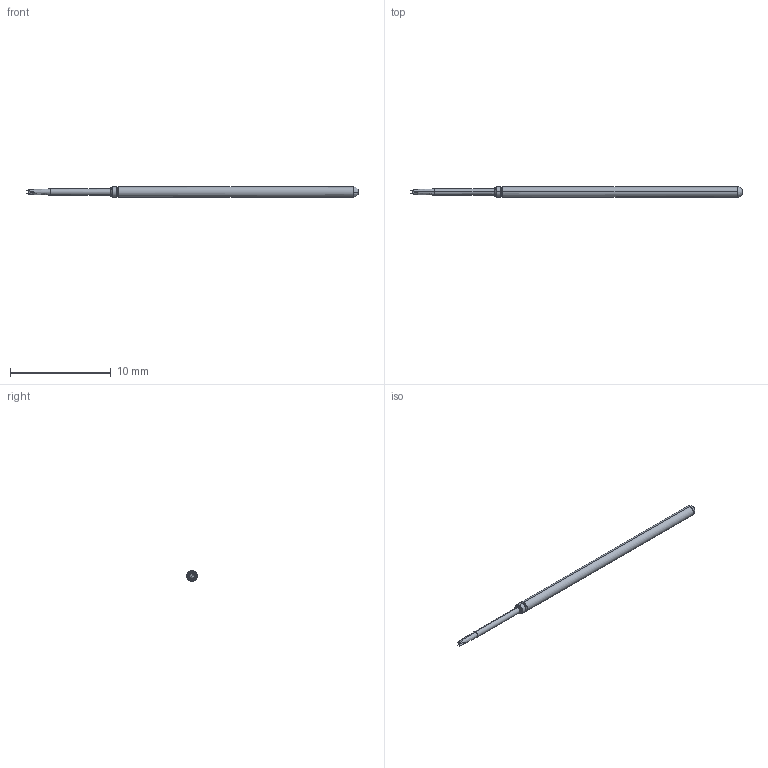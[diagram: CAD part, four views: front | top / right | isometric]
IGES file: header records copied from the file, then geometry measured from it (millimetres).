
Start section: SolidWorks IGES file using analytic representation for surfaces
Global section: file name: \\CODA-VM-SBS\RedirectedFolders\georged\My Documents\CODA FILES NEW\ATE TEST PROBES\LPA2 & ST-LPA2 SERIES\LPA2Q-018.IGS; native system: SolidWorks 2022; preprocessor: SolidWorks 2022; author: GeorgeD; date: 230605.120535; units: inch
Bounding box: 33.02 x 1.02 x 1.02 mm (x, y, z)
Surface area: 95 mm2 (no closed solid volume)
Topology: 0 solids, 0 shells, 28 faces, 170 edges, 170 vertices
Faces by surface type: bspline 28
